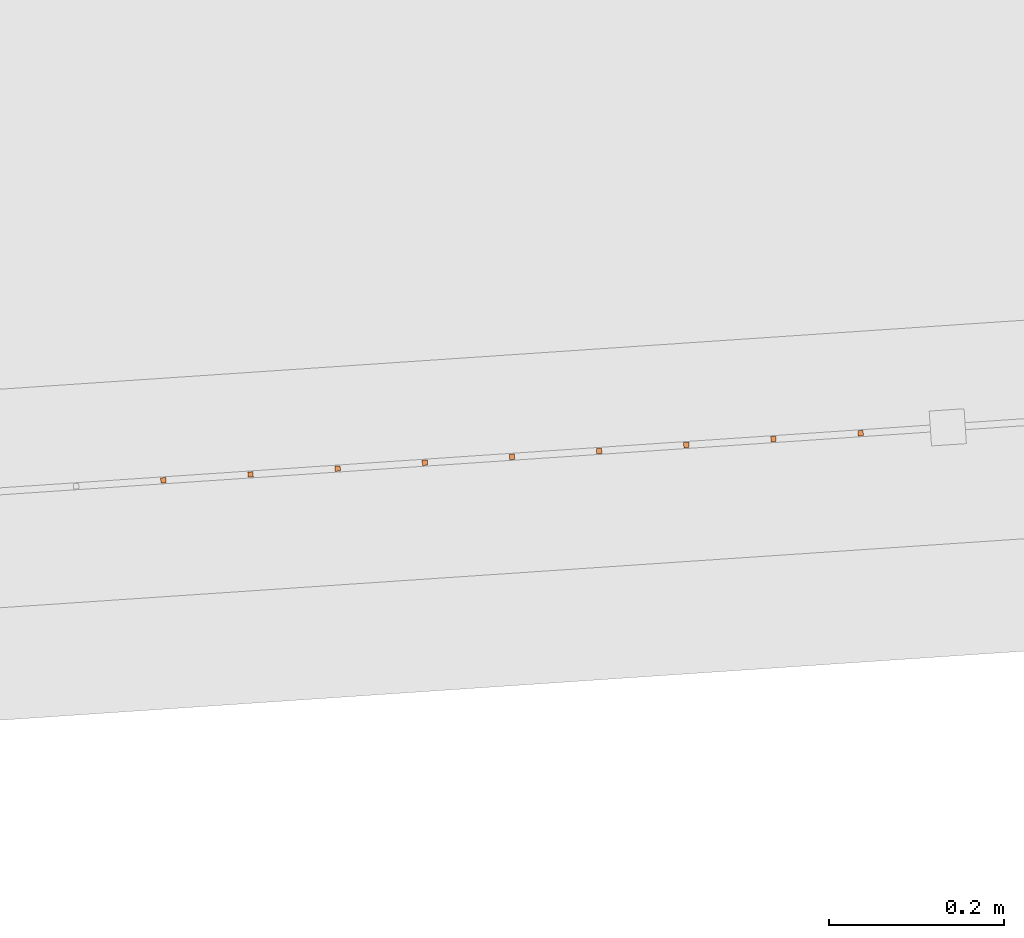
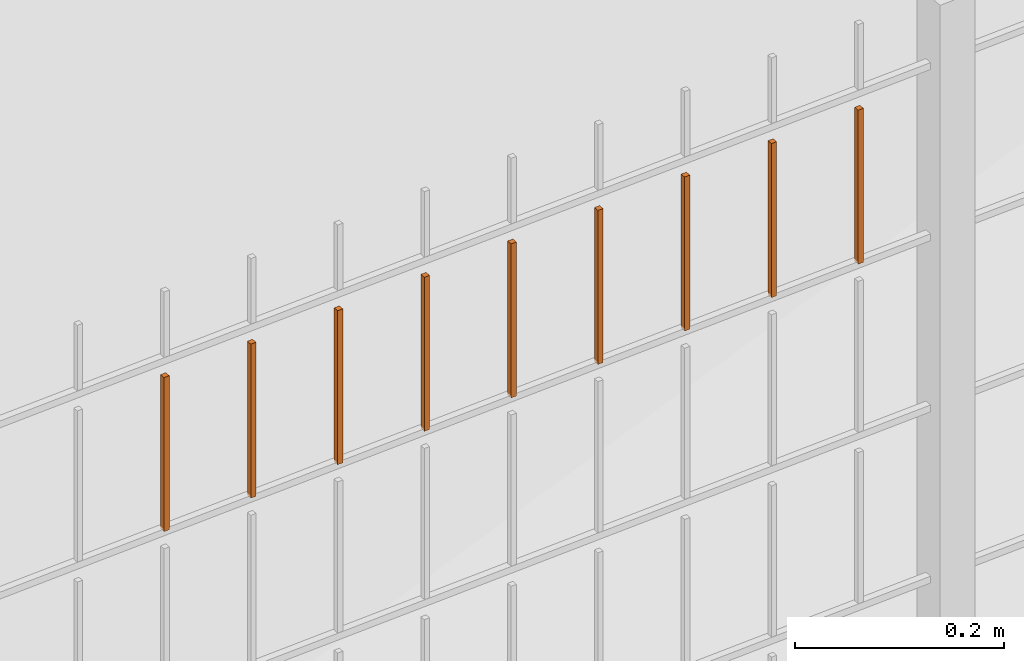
# One storey, part 82 of 1809: 9 proxies, 1 element without a shape of its own.
"""IFC2X3 building model written with IfcOpenShell, lengths in millimetres."""

from ifc_helpers import new_model, entity, si_unit, converted_unit, derived_unit, money_unit, direction, frame, origin_with_axes, place, context, subcontext, project, spatial, faceted_brep, source, transform, mapped, material, type_object, element, aggregate, save


model = new_model("IFC2X3")

# Units and contexts
model_context = context("Model", 3, precision=0.01, world=origin_with_axes(), true_north=direction((0.0, 1.0)))
body_context = subcontext(model_context, "Body", "Model", "MODEL_VIEW")
ifc_project = project(units=[si_unit("LENGTHUNIT", "METRE", prefix="MILLI"), si_unit("AREAUNIT", "SQUARE_METRE"), si_unit("VOLUMEUNIT", "CUBIC_METRE"), converted_unit("PLANEANGLEUNIT", "DEGREE", entity("IfcPlaneAngleMeasure", 0.0174532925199), si_unit("PLANEANGLEUNIT", "RADIAN"), dimensions=[0, 0, 0, 0, 0, 0, 0]), si_unit("SOLIDANGLEUNIT", "STERADIAN"), money_unit("EUR"), converted_unit("TIMEUNIT", "Year", entity("IfcTimeMeasure", 31556926.0), si_unit("TIMEUNIT", "SECOND"), dimensions=[0, 0, 1, 0, 0, 0, 0]), si_unit("MASSUNIT", "GRAM", prefix="KILO"), si_unit("THERMODYNAMICTEMPERATUREUNIT", "DEGREE_CELSIUS"), si_unit("LUMINOUSINTENSITYUNIT", "LUMEN"), si_unit("ENERGYUNIT", "JOULE", prefix="MEGA"), derived_unit("THERMALCONDUCTANCEUNIT", [(si_unit("POWERUNIT", "WATT"), 1), (si_unit("LENGTHUNIT", "METRE"), -1), (si_unit("THERMODYNAMICTEMPERATUREUNIT", "KELVIN"), -1)]), derived_unit("SPECIFICHEATCAPACITYUNIT", [(si_unit("ENERGYUNIT", "JOULE"), 1), (si_unit("MASSUNIT", "GRAM", prefix="KILO"), -1), (si_unit("THERMODYNAMICTEMPERATUREUNIT", "KELVIN"), -1)]), derived_unit("MASSDENSITYUNIT", [(si_unit("MASSUNIT", "GRAM", prefix="KILO"), 1), (si_unit("VOLUMEUNIT", "CUBIC_METRE"), -1)])], contexts=[model_context])

# Site, building, storey
site_placement = place(None, origin_with_axes())
site = spatial("IfcSite", under=ifc_project, at=site_placement, Name="Politse- ja Piirivalveameti ning Päästeameti ühishoone", CompositionType="ELEMENT")
building_placement = place(site_placement, origin_with_axes())
building = spatial("IfcBuilding", under=site, at=building_placement, Name="Politse- ja Piirivalveameti ning Päästeameti ühishoone", CompositionType="ELEMENT")
storey_placement = place(building_placement, origin_with_axes())
storey = spatial("IfcBuildingStorey", under=building, at=storey_placement, Name="Esimene korrus", CompositionType="ELEMENT", Elevation=0.0)

# Proxies
building_element_proxy_type_1 = type_object("IfcBuildingElementProxyType", Name="Railing Type", PredefinedType="NOTDEFINED")
proxy_1_placement = place(storey_placement, frame((89252.001212, -29183.4766571, 203.661247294), z_axis=(0.0, 0.0, 1.0), x_axis=(1.0, 0.0, 0.0)))
proxy_1 = element("IfcBuildingElementProxy", 1, at=proxy_1_placement, inside=storey, type_object=building_element_proxy_type_1, Name="PIIRDEAED")
ifc_material = material(Name="ET-03_Raud")
building_element_proxy_type_2 = type_object("IfcBuildingElementProxyType", Name="IfcBuildingElementProxy", PredefinedType="NOTDEFINED")
shared_shape_1 = source(origin_with_axes(), body_context, "Body", "Brep", [
    faceted_brep([(3.0, 3.0, -0.000752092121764), (-3.0, 3.0, -0.000752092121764), (-3.0, 3.0, 179.99926046), (3.0, 3.0, 179.99926046), (3.0, -3.0, 0.000752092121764), (-3.0, -3.0, 0.000752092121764), (-3.0, -3.0, 180.000764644), (3.0, -3.0, 180.000764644)], [[[0, 1, 2, 3]], [[0, 4, 5, 1]], [[1, 5, 6, 2]], [[3, 2, 6, 7]], [[4, 0, 3, 7]], [[5, 4, 7, 6]]]),
])
proxy_2_placement = place(proxy_1_placement, frame((-102193.823991, -24200.5819066, 1801.55628382), z_axis=(0.0, 0.0, 1.0), x_axis=(1.0, 0.0, 0.0)))
proxy_2 = element("IfcBuildingElementProxy", 2, at=proxy_2_placement, type_object=building_element_proxy_type_2, material=ifc_material, Name="BALUSTER - 001", context=body_context, shape_type="MappedRepresentation", body=[
    mapped(shared_shape_1, transform((0.0, 0.0, 0.0), x_axis=(-0.0673926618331, 0.997726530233, 0.0), y_axis=(-0.997726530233, -0.0673926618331, 0.0), z_axis=(0.0, 0.0, 1.0))),
])
proxy_3_placement = place(proxy_1_placement, frame((-102493.14195, -24220.7997052, 1801.4810746), z_axis=(0.0, 0.0, 1.0), x_axis=(1.0, 0.0, 0.0)))
proxy_3 = element("IfcBuildingElementProxy", 3, at=proxy_3_placement, type_object=building_element_proxy_type_2, material=ifc_material, Name="BALUSTER - 001", context=body_context, shape_type="MappedRepresentation", body=[
    mapped(shared_shape_1, transform((0.0, 0.0, 0.0), x_axis=(-0.0673926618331, 0.997726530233, 0.0), y_axis=(-0.997726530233, -0.0673926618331, 0.0), z_axis=(0.0, 0.0, 1.0))),
])
shared_shape_2 = source(origin_with_axes(), body_context, "Body", "Brep", [
    faceted_brep([(3.0, 3.0, -0.000752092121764), (-3.0, 3.0, -0.000752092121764), (-3.0, 3.0, 179.99926046), (3.0, 3.0, 179.99926046), (3.0, -3.0, 0.000752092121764), (-3.0, -3.0, 0.000752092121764), (-3.0, -3.0, 180.000764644), (3.0, -3.0, 180.000764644)], [[[0, 1, 2, 3]], [[0, 4, 5, 1]], [[1, 5, 6, 2]], [[3, 2, 6, 7]], [[4, 0, 3, 7]], [[5, 4, 7, 6]]]),
])
proxy_4_placement = place(proxy_1_placement, frame((-102692.687256, -24234.2782375, 1801.43093513), z_axis=(0.0, 0.0, 1.0), x_axis=(1.0, 0.0, 0.0)))
proxy_4 = element("IfcBuildingElementProxy", 4, at=proxy_4_placement, type_object=building_element_proxy_type_2, material=ifc_material, Name="BALUSTER - 001", context=body_context, shape_type="MappedRepresentation", body=[
    mapped(shared_shape_2, transform((0.0, 0.0, 0.0), x_axis=(-0.0673926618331, 0.997726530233, 0.0), y_axis=(-0.997726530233, -0.0673926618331, 0.0), z_axis=(0.0, 0.0, 1.0))),
])
shared_shape_3 = source(origin_with_axes(), body_context, "Body", "Brep", [
    faceted_brep([(3.0, 3.0, -0.000752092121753), (-3.0, 3.0, -0.000752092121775), (-3.0, 3.0, 179.99926046), (3.0, 3.0, 179.99926046), (3.0, -3.0, 0.000752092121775), (-3.0, -3.0, 0.000752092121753), (-3.0, -3.0, 180.000764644), (3.0, -3.0, 180.000764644)], [[[0, 1, 2, 3]], [[0, 4, 5, 1]], [[1, 5, 6, 2]], [[3, 2, 6, 7]], [[4, 0, 3, 7]], [[5, 4, 7, 6]]]),
])
proxy_5_placement = place(proxy_1_placement, frame((-102293.596644, -24207.3211728, 1801.53121408), z_axis=(0.0, 0.0, 1.0), x_axis=(1.0, 0.0, 0.0)))
proxy_5 = element("IfcBuildingElementProxy", 5, at=proxy_5_placement, type_object=building_element_proxy_type_2, material=ifc_material, Name="BALUSTER - 001", context=body_context, shape_type="MappedRepresentation", body=[
    mapped(shared_shape_3, transform((0.0, 0.0, 0.0), x_axis=(-0.0673926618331, 0.997726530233, 0.0), y_axis=(-0.997726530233, -0.0673926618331, 0.0), z_axis=(0.0, 0.0, 1.0))),
])
proxy_6_placement = place(proxy_1_placement, frame((-102792.459909, -24241.0175037, 1801.40586539), z_axis=(0.0, 0.0, 1.0), x_axis=(1.0, 0.0, 0.0)))
proxy_6 = element("IfcBuildingElementProxy", 6, at=proxy_6_placement, type_object=building_element_proxy_type_2, material=ifc_material, Name="BALUSTER - 001", context=body_context, shape_type="MappedRepresentation", body=[
    mapped(shared_shape_3, transform((0.0, 0.0, 0.0), x_axis=(-0.0673926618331, 0.997726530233, 0.0), y_axis=(-0.997726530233, -0.0673926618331, 0.0), z_axis=(0.0, 0.0, 1.0))),
])
shared_shape_4 = source(origin_with_axes(), body_context, "Body", "Brep", [
    faceted_brep([(3.0, 3.0, -0.000752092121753), (-3.0, 3.0, -0.000752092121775), (-3.0, 3.0, 179.99926046), (3.0, 3.0, 179.99926046), (3.0, -3.0, 0.000752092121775), (-3.0, -3.0, 0.000752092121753), (-3.0, -3.0, 180.000764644), (3.0, -3.0, 180.000764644)], [[[0, 1, 2, 3]], [[0, 4, 5, 1]], [[1, 5, 6, 2]], [[3, 2, 6, 7]], [[4, 0, 3, 7]], [[5, 4, 7, 6]]]),
])
proxy_7_placement = place(proxy_1_placement, frame((-102592.914603, -24227.5389714, 1801.45600487), z_axis=(0.0, 0.0, 1.0), x_axis=(1.0, 0.0, 0.0)))
proxy_7 = element("IfcBuildingElementProxy", 7, at=proxy_7_placement, type_object=building_element_proxy_type_2, material=ifc_material, Name="BALUSTER - 001", context=body_context, shape_type="MappedRepresentation", body=[
    mapped(shared_shape_4, transform((0.0, 0.0, 0.0), x_axis=(-0.0673926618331, 0.997726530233, 0.0), y_axis=(-0.997726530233, -0.0673926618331, 0.0), z_axis=(0.0, 0.0, 1.0))),
])
proxy_8_placement = place(proxy_1_placement, frame((-102892.232562, -24247.7567699, 1801.38079566), z_axis=(0.0, 0.0, 1.0), x_axis=(1.0, 0.0, 0.0)))
proxy_8 = element("IfcBuildingElementProxy", 8, at=proxy_8_placement, type_object=building_element_proxy_type_2, material=ifc_material, Name="BALUSTER - 001", context=body_context, shape_type="MappedRepresentation", body=[
    mapped(shared_shape_4, transform((0.0, 0.0, 0.0), x_axis=(-0.0673926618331, 0.997726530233, 0.0), y_axis=(-0.997726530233, -0.0673926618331, 0.0), z_axis=(0.0, 0.0, 1.0))),
])
proxy_9_placement = place(proxy_1_placement, frame((-102992.005215, -24254.4960361, 1801.35572592), z_axis=(0.0, 0.0, 1.0), x_axis=(1.0, 0.0, 0.0)))
proxy_9 = element("IfcBuildingElementProxy", 9, at=proxy_9_placement, type_object=building_element_proxy_type_2, material=ifc_material, Name="BALUSTER - 001", context=body_context, shape_type="MappedRepresentation", body=[
    mapped(shared_shape_4, transform((0.0, 0.0, 0.0), x_axis=(-0.0673926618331, 0.997726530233, 0.0), y_axis=(-0.997726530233, -0.0673926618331, 0.0), z_axis=(0.0, 0.0, 1.0))),
])
shared_shape_5 = source(origin_with_axes(), body_context, "Body", "Brep", [
    faceted_brep([(3.0, 3.0, -0.000752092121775), (-3.0, 3.0, -0.000752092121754), (-3.0, 3.0, 179.99926046), (3.0, 3.0, 179.99926046), (3.0, -3.0, 0.000752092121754), (-3.0, -3.0, 0.000752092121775), (-3.0, -3.0, 180.000764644), (3.0, -3.0, 180.000764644)], [[[0, 1, 2, 3]], [[0, 4, 5, 1]], [[1, 5, 6, 2]], [[3, 2, 6, 7]], [[4, 0, 3, 7]], [[5, 4, 7, 6]]]),
])
proxy_10_placement = place(proxy_1_placement, frame((-102393.369297, -24214.060439, 1801.50614434), z_axis=(0.0, 0.0, 1.0), x_axis=(1.0, 0.0, 0.0)))
proxy_10 = element("IfcBuildingElementProxy", 10, at=proxy_10_placement, type_object=building_element_proxy_type_2, material=ifc_material, Name="BALUSTER - 001", context=body_context, shape_type="MappedRepresentation", body=[
    mapped(shared_shape_5, transform((0.0, 0.0, 0.0), x_axis=(-0.0673926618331, 0.997726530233, 0.0), y_axis=(-0.997726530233, -0.0673926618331, 0.0), z_axis=(0.0, 0.0, 1.0))),
])
aggregate(proxy_1, [proxy_2, proxy_5, proxy_10, proxy_3, proxy_7, proxy_4, proxy_6, proxy_8, proxy_9])

save(model, "model.ifc")
